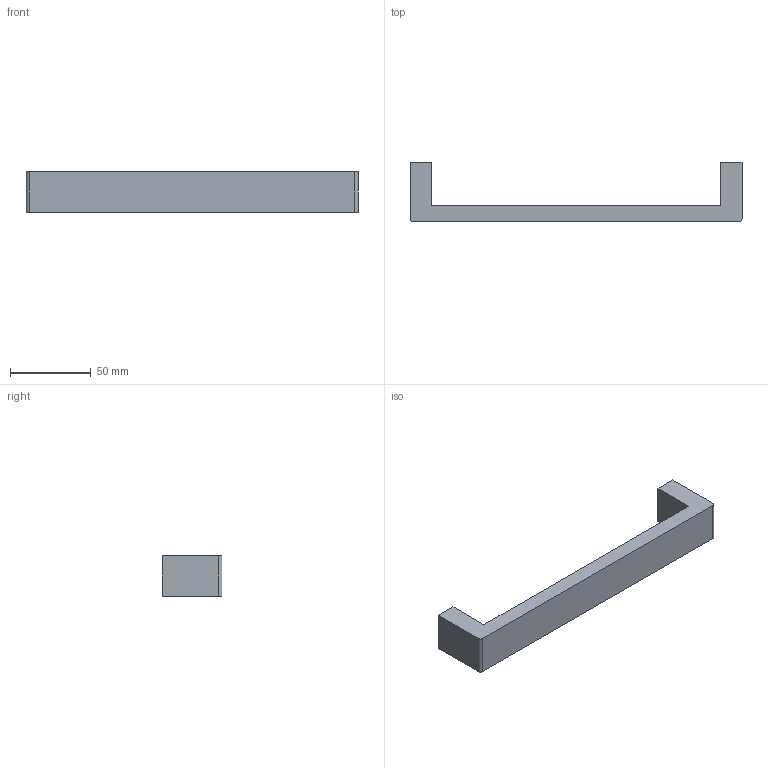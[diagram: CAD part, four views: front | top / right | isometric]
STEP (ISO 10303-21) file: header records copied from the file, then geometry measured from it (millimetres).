
FILE_DESCRIPTION( ( '' ), '1' );
FILE_NAME( 'D:/1.AUTOCAD EXPORT/Group 10/sheet_10_1/115060.stp', '2013-10-18T09:00:50', ( '' ), ( '' ), ' ', ' ', ' ' );
FILE_SCHEMA( ( 'automotive_design' ) );
Length unit declared in the file: millimetre
Products named in the file (1): 1
Bounding box: 205 x 37 x 25 mm (x, y, z)
Volume: 68556 mm3; surface area: 19108.7 mm2
Topology: 1 solids, 1 shells, 18 faces, 42 edges, 28 vertices
Faces by surface type: plane 12, cylinder 6
Entity records: 1036 total; most frequent: DIRECTION 92, STYLED_ITEM 89, PRESENTATION_STYLE_ASSIGNMENT 89, CARTESIAN_POINT 89, COLOUR_RGB 89, ORIENTED_EDGE 84, EDGE_CURVE 42, CURVE_STYLE 42
